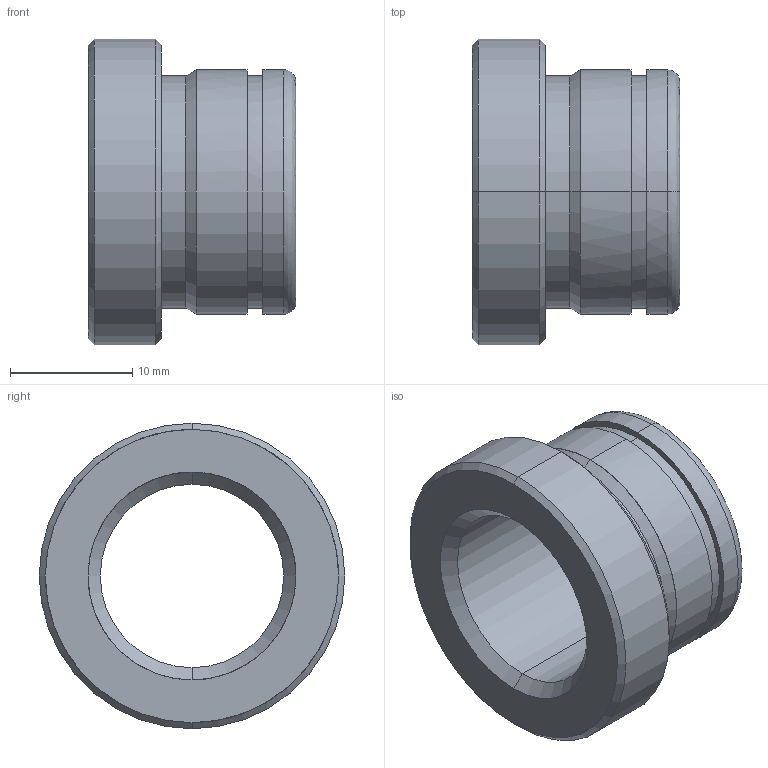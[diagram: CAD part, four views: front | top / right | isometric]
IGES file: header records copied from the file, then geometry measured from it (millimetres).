
Start section: START RECORD GO HERE.
Global section: file name: 553-15X17.igs; native system: DASSAULT SYSTEMES CATIA V5 R20 - www.3ds.com; preprocessor: CATIA Version 5 Release 20 ; author: Utente; organization: NB04-ASUS; date: 20210521.204045; units: millimetre
Bounding box: 17 x 25 x 25 mm (x, y, z)
Surface area: 2550.5 mm2 (no closed solid volume)
Topology: 0 solids, 0 shells, 28 faces, 176 edges, 176 vertices
Faces by surface type: revolution 24, plane 4
